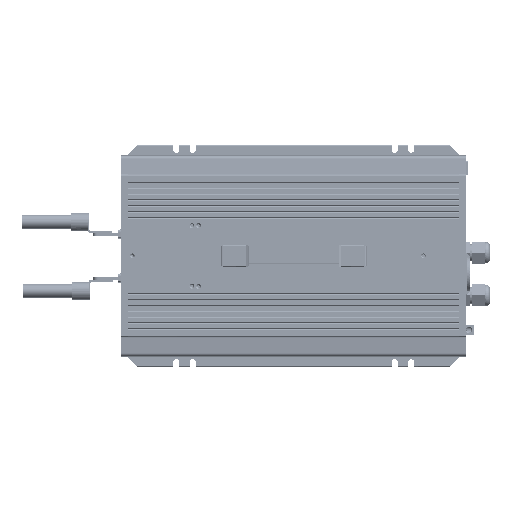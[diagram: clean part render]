
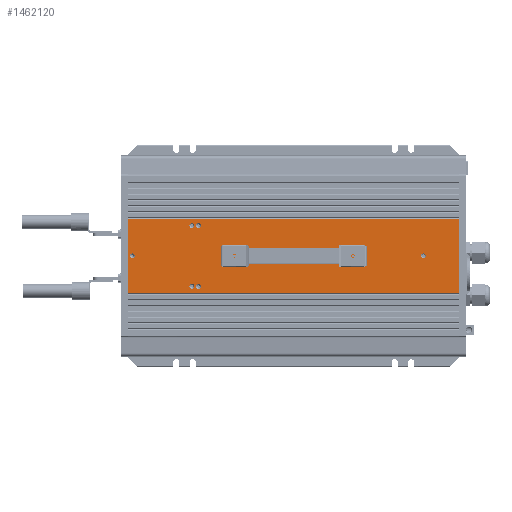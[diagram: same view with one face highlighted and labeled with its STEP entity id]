
A CAD part, top view. The second image highlights one B-rep face of the part: STEP entity #1462120.
In plain terms, the highlighted planar face has unit normal (0, 0, 1) as drawn and (0, 1, 0) by its records, which use the part's own axes.
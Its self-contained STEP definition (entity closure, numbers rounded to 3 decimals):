
#1439400=CARTESIAN_POINT('',(2078.449,98.104,-63.1));
#1439410=VERTEX_POINT('',#1439400);
#1439440=CARTESIAN_POINT('',(1988.299,98.104,-63.1));
#1439450=DIRECTION('',(1.,0.,0.));
#1439460=VECTOR('',#1439450,90.15);
#1439470=LINE('',#1439440,#1439460);
#1439480=CARTESIAN_POINT('',(1988.299,98.104,-63.1));
#1439490=VERTEX_POINT('',#1439480);
#1439500=EDGE_CURVE('',#1439490,#1439410,#1439470,.T.);
#1448380=CARTESIAN_POINT('',(1988.299,98.104,340.9));
#1448390=VERTEX_POINT('',#1448380);
#1448420=CARTESIAN_POINT('',(2078.449,98.104,340.9));
#1448430=DIRECTION('',(-1.,0.,0.));
#1448440=VECTOR('',#1448430,90.15);
#1448450=LINE('',#1448420,#1448440);
#1448460=CARTESIAN_POINT('',(2078.449,98.104,340.9));
#1448470=VERTEX_POINT('',#1448460);
#1448480=EDGE_CURVE('',#1448470,#1448390,#1448450,.T.);
#1460220=CARTESIAN_POINT('',(2030.374,98.104,296.9));
#1460230=VERTEX_POINT('',#1460220);
#1460350=CARTESIAN_POINT('',(2036.374,98.104,296.9));
#1460360=VERTEX_POINT('',#1460350);
#1460390=CARTESIAN_POINT('',(2033.374,98.104,296.9));
#1460400=DIRECTION('',(0.,-1.,0.));
#1460410=DIRECTION('',(1.,0.,0.));
#1460420=AXIS2_PLACEMENT_3D('',#1460390,#1460400,#1460410);
#1460430=CIRCLE('',#1460420,3.);
#1460440=EDGE_CURVE('',#1460360,#1460230,#1460430,.T.);
#1460730=CARTESIAN_POINT('',(2028.721,98.104,122.9));
#1460740=DIRECTION('',(0.,-1.,0.));
#1460750=DIRECTION('',(1.,0.,0.));
#1460760=AXIS2_PLACEMENT_3D('',#1460730,#1460740,#1460750);
#1460770=PLANE('',#1460760);
#1460780=CARTESIAN_POINT('',(2033.376,98.104,210.9));
#1460790=DIRECTION('',(0.,1.,0.));
#1460800=DIRECTION('',(0.,0.,1.));
#1460810=AXIS2_PLACEMENT_3D('',#1460780,#1460790,#1460800);
#1460820=CIRCLE('',#1460810,1.6);
#1460830=CARTESIAN_POINT('',(2033.376,98.104,212.5));
#1460840=VERTEX_POINT('',#1460830);
#1460850=CARTESIAN_POINT('',(2033.376,98.104,209.3));
#1460860=VERTEX_POINT('',#1460850);
#1460870=EDGE_CURVE('',#1460840,#1460860,#1460820,.T.);
#1460880=ORIENTED_EDGE('',*,*,#1460870,.F.);
#1460890=EDGE_CURVE('',#1460860,#1460840,#1460820,.T.);
#1460900=ORIENTED_EDGE('',*,*,#1460890,.F.);
#1460910=EDGE_LOOP('',(#1460900,#1460880));
#1460920=FACE_BOUND('',#1460910,.T.);
#1460930=CARTESIAN_POINT('',(1996.284,98.104,22.949
));
#1460940=DIRECTION('',(0.,1.,0.));
#1460950=DIRECTION('',(1.,0.,0.));
#1460960=AXIS2_PLACEMENT_3D('',#1460930,#1460940,#1460950);
#1460970=CIRCLE('',#1460960,3.);
#1460980=CARTESIAN_POINT('',(1996.284,98.104,19.949
));
#1460990=VERTEX_POINT('',#1460980);
#1461000=CARTESIAN_POINT('',(1993.284,98.104,22.949
));
#1461010=VERTEX_POINT('',#1461000);
#1461020=EDGE_CURVE('',#1460990,#1461010,#1460970,.T.);
#1461030=ORIENTED_EDGE('',*,*,#1461020,.F.);
#1461040=CARTESIAN_POINT('',(1999.284,98.104,22.949
));
#1461050=VERTEX_POINT('',#1461040);
#1461060=EDGE_CURVE('',#1461010,#1461050,#1460970,.T.);
#1461070=ORIENTED_EDGE('',*,*,#1461060,.F.);
#1461080=EDGE_CURVE('',#1461050,#1460990,#1460970,.T.);
#1461090=ORIENTED_EDGE('',*,*,#1461080,.F.);
#1461100=EDGE_LOOP('',(#1461090,#1461070,#1461030));
#1461110=FACE_BOUND('',#1461100,.T.);
#1461120=EDGE_CURVE('',#1460230,#1460360,#1460430,.T.);
#1461130=ORIENTED_EDGE('',*,*,#1461120,.T.);
#1461140=ORIENTED_EDGE('',*,*,#1460440,.T.);
#1461150=EDGE_LOOP('',(#1461140,#1461130));
#1461160=FACE_BOUND('',#1461150,.T.);
#1461170=CARTESIAN_POINT('',(2033.376,98.104,-57.6));
#1461180=DIRECTION('',(0.,-1.,0.));
#1461190=DIRECTION('',(-1.,0.,0.));
#1461200=AXIS2_PLACEMENT_3D('',#1461170,#1461180,#1461190);
#1461210=CIRCLE('',#1461200,3.);
#1461220=CARTESIAN_POINT('',(2030.376,98.104,
-57.6));
#1461230=VERTEX_POINT('',#1461220);
#1461240=CARTESIAN_POINT('',(2036.376,98.104,
-57.6));
#1461250=VERTEX_POINT('',#1461240);
#1461260=EDGE_CURVE('',#1461230,#1461250,#1461210,.T.);
#1461270=ORIENTED_EDGE('',*,*,#1461260,.T.);
#1461280=EDGE_CURVE('',#1461250,#1461230,#1461210,.T.);
#1461290=ORIENTED_EDGE('',*,*,#1461280,.T.);
#1461300=EDGE_LOOP('',(#1461290,#1461270));
#1461310=FACE_BOUND('',#1461300,.T.);
#1461320=CARTESIAN_POINT('',(2070.318,98.104,14.949));
#1461330=DIRECTION('',(0.,1.,0.));
#1461340=DIRECTION('',(1.,0.,0.));
#1461350=AXIS2_PLACEMENT_3D('',#1461320,#1461330,#1461340);
#1461360=CIRCLE('',#1461350,3.);
#1461370=CARTESIAN_POINT('',(2073.318,98.104,14.949));
#1461380=VERTEX_POINT('',#1461370);
#1461390=CARTESIAN_POINT('',(2067.318,98.104,14.949));
#1461400=VERTEX_POINT('',#1461390);
#1461410=EDGE_CURVE('',#1461380,#1461400,#1461360,.T.);
#1461420=ORIENTED_EDGE('',*,*,#1461410,.F.);
#1461430=EDGE_CURVE('',#1461400,#1461380,#1461360,.T.);
#1461440=ORIENTED_EDGE('',*,*,#1461430,.F.);
#1461450=EDGE_LOOP('',(#1461440,#1461420));
#1461460=FACE_BOUND('',#1461450,.T.);
#1461470=CARTESIAN_POINT('',(1996.284,98.104,14.949
));
#1461480=DIRECTION('',(0.,1.,0.));
#1461490=DIRECTION('',(1.,0.,0.));
#1461500=AXIS2_PLACEMENT_3D('',#1461470,#1461480,#1461490);
#1461510=CIRCLE('',#1461500,3.);
#1461520=CARTESIAN_POINT('',(1995.513,98.104,12.05
));
#1461530=VERTEX_POINT('',#1461520);
#1461540=CARTESIAN_POINT('',(1993.284,98.104,14.949
));
#1461550=VERTEX_POINT('',#1461540);
#1461560=EDGE_CURVE('',#1461530,#1461550,#1461510,.T.);
#1461570=ORIENTED_EDGE('',*,*,#1461560,.F.);
#1461580=CARTESIAN_POINT('',(1999.284,98.104,14.949
));
#1461590=VERTEX_POINT('',#1461580);
#1461600=EDGE_CURVE('',#1461550,#1461590,#1461510,.T.);
#1461610=ORIENTED_EDGE('',*,*,#1461600,.F.);
#1461620=EDGE_CURVE('',#1461590,#1461530,#1461510,.T.);
#1461630=ORIENTED_EDGE('',*,*,#1461620,.F.);
#1461640=EDGE_LOOP('',(#1461630,#1461610,#1461570));
#1461650=FACE_BOUND('',#1461640,.T.);
#1461660=CARTESIAN_POINT('',(2070.318,98.104,22.949));
#1461670=DIRECTION('',(0.,1.,0.));
#1461680=DIRECTION('',(1.,0.,0.));
#1461690=AXIS2_PLACEMENT_3D('',#1461660,#1461670,#1461680);
#1461700=CIRCLE('',#1461690,3.);
#1461710=CARTESIAN_POINT('',(2073.318,98.104,22.949));
#1461720=VERTEX_POINT('',#1461710);
#1461730=CARTESIAN_POINT('',(2067.318,98.104,22.949));
#1461740=VERTEX_POINT('',#1461730);
#1461750=EDGE_CURVE('',#1461720,#1461740,#1461700,.T.);
#1461760=ORIENTED_EDGE('',*,*,#1461750,.F.);
#1461770=EDGE_CURVE('',#1461740,#1461720,#1461700,.T.);
#1461780=ORIENTED_EDGE('',*,*,#1461770,.F.);
#1461790=EDGE_LOOP('',(#1461780,#1461760));
#1461800=FACE_BOUND('',#1461790,.T.);
#1461810=CARTESIAN_POINT('',(2033.376,98.104,66.9));
#1461820=DIRECTION('',(0.,1.,0.));
#1461830=DIRECTION('',(0.,0.,1.));
#1461840=AXIS2_PLACEMENT_3D('',#1461810,#1461820,#1461830);
#1461850=CIRCLE('',#1461840,1.6);
#1461860=CARTESIAN_POINT('',(2033.376,98.104,68.5));
#1461870=VERTEX_POINT('',#1461860);
#1461880=CARTESIAN_POINT('',(2033.376,98.104,65.3));
#1461890=VERTEX_POINT('',#1461880);
#1461900=EDGE_CURVE('',#1461870,#1461890,#1461850,.T.);
#1461910=ORIENTED_EDGE('',*,*,#1461900,.F.);
#1461920=EDGE_CURVE('',#1461890,#1461870,#1461850,.T.);
#1461930=ORIENTED_EDGE('',*,*,#1461920,.F.);
#1461940=EDGE_LOOP('',(#1461930,#1461910));
#1461950=FACE_BOUND('',#1461940,.T.);
#1461960=ORIENTED_EDGE('',*,*,#1439500,.F.);
#1461970=CARTESIAN_POINT('',(2078.449,98.104,-63.1));
#1461980=DIRECTION('',(0.,0.,1.));
#1461990=VECTOR('',#1461980,404.);
#1462000=LINE('',#1461970,#1461990);
#1462010=EDGE_CURVE('',#1439410,#1448470,#1462000,.T.);
#1462020=ORIENTED_EDGE('',*,*,#1462010,.F.);
#1462030=ORIENTED_EDGE('',*,*,#1448480,.F.);
#1462040=CARTESIAN_POINT('',(1988.299,98.104,340.9));
#1462050=DIRECTION('',(0.,0.,-1.));
#1462060=VECTOR('',#1462050,404.);
#1462070=LINE('',#1462040,#1462060);
#1462080=EDGE_CURVE('',#1448390,#1439490,#1462070,.T.);
#1462090=ORIENTED_EDGE('',*,*,#1462080,.F.);
#1462100=EDGE_LOOP('',(#1462090,#1462030,#1462020,#1461960));
#1462110=FACE_OUTER_BOUND('',#1462100,.T.);
#1462120=ADVANCED_FACE('',(#1460920,#1461110,#1461160,#1461310,#1461460,
#1461650,#1461800,#1461950,#1462110),#1460770,.F.);
